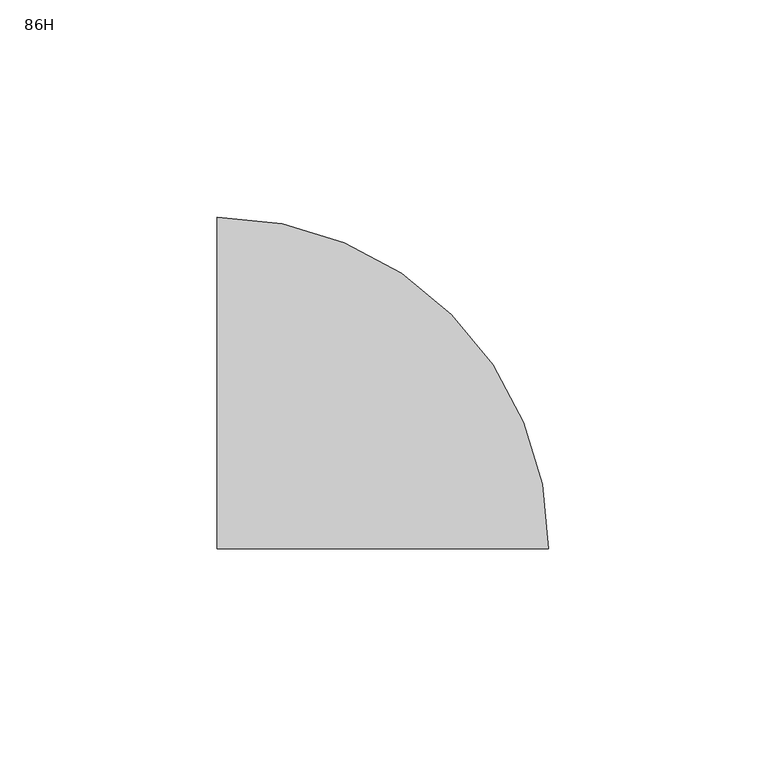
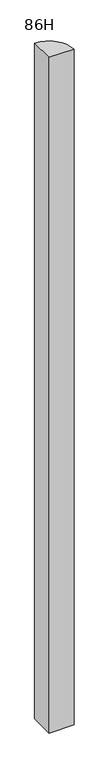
"""IFC4 building model written with IfcOpenShell, lengths in millimetres: furniture geometry, Steelcase - Montage - Junction - L Radius - Same-Height : 86H."""

from ifc_helpers import new_model, si_unit, point, frame, frame_2d, origin, place, context, project, spatial, polyline, circle_curve, trimmed, segment, composite_curve, outline, extrude, source, transform, mapped, element, save


def furniture_86h_737b5e99(model_context):
    return source(origin(), model_context, "Body", "SweptSolid", [
        extrude(outline(composite_curve([segment(trimmed(circle_curve(frame_2d((457.2, -38.1000006)), 76.2000006), [point((457.2, 38.1))], [point((533.4000006, -38.1000006))], False, "CARTESIAN"), True, "CONTINUOUS"), segment(polyline([(533.4000006, -38.1000006), (457.2, -38.1000006), (457.2, 38.1)]), True, "CONTINUOUS")], self_intersect=False)), frame((0.0, 0.0, 4.064), z_axis=(0.0, 0.0, 1.0), x_axis=(1.0, 0.0, 0.0)), (0.0, 0.0, 1.0), 2180.336),
    ])


if __name__ == "__main__":
    model = new_model("IFC4")
    model_context = context("Model", 3, world=origin())
    ifc_project = project(units=[si_unit("LENGTHUNIT", "METRE", prefix="MILLI")], contexts=[model_context])
    site = spatial("IfcSite", under=ifc_project)
    building = spatial("IfcBuilding", under=site)
    placement = place(None, origin())
    furniture_86h_shape = furniture_86h_737b5e99(model_context)
    element("IfcFurniture", 1, ObjectType="Steelcase - Montage - Junction - L Radius - Same-Height : 86H", at=placement, inside=building, context=model_context, shape_type="MappedRepresentation", body=[
        mapped(furniture_86h_shape, transform((0.0, 0.0, 0.0), x_axis=(1.0, 0.0, 0.0), y_axis=(0.0, 1.0, 0.0), z_axis=(0.0, 0.0, 1.0))),
    ])
    save(model, "model.ifc")
